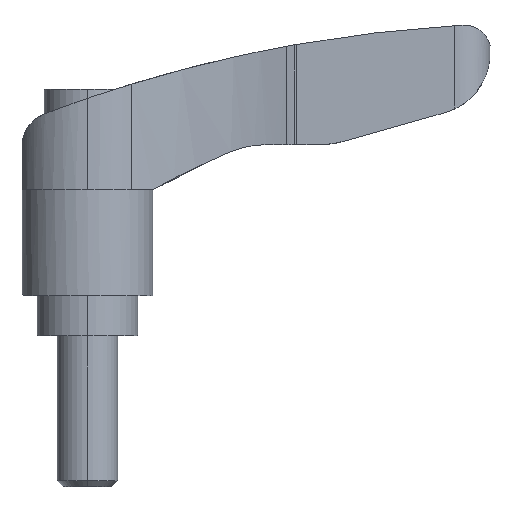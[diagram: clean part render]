
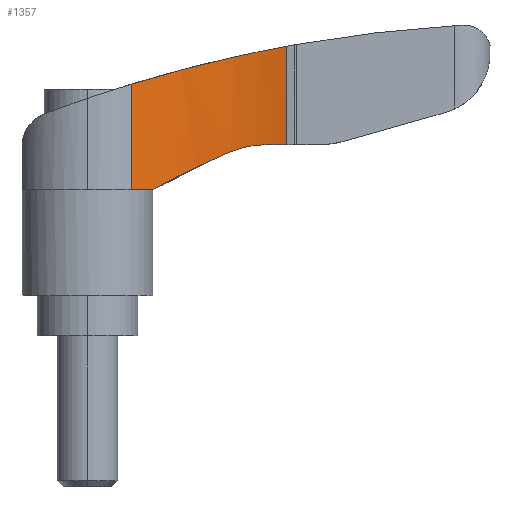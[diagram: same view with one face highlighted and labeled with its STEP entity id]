
A CAD part, front view. The second image highlights one B-rep face of the part: STEP entity #1357.
In plain terms, the highlighted cylindrical face has radius 30 mm (diameter 60 mm), a partial arc.
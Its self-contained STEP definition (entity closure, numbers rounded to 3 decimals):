
#5 = VERTEX_POINT ( 'NONE', #33 ) ;
#21 = EDGE_LOOP ( 'NONE', ( #1632, #405, #1134, #2070, #1921, #1961, #1460 ) ) ;
#33 = CARTESIAN_POINT ( 'NONE',  ( 19.777, -4.016, 28.774 ) ) ;
#96 = CARTESIAN_POINT ( 'NONE',  ( 5.581, -5.022, 25.381 ) ) ;
#97 = CARTESIAN_POINT ( 'NONE',  ( 15.391, -3.6, 18.707 ) ) ;
#168 = CARTESIAN_POINT ( 'NONE',  ( 6.49, -4.774, 14.5 ) ) ;
#255 = CARTESIAN_POINT ( 'NONE',  ( 14.256, -3.605, 18.298 ) ) ;
#284 = EDGE_CURVE ( 'NONE', #1866, #627, #488, .T. ) ;
#300 = VERTEX_POINT ( 'NONE', #1615 ) ;
#308 = AXIS2_PLACEMENT_3D ( 'NONE', #1377, #1356, #2018 ) ;
#336 = CARTESIAN_POINT ( 'NONE',  ( 12.903, -3.629, 17.732 ) ) ;
#349 = B_SPLINE_CURVE_WITH_KNOTS ( 'NONE', 3,
 ( #1167, #336, #2012, #1023, #1818, #168 ),
 .UNSPECIFIED., .F., .F.,
 ( 4, 2, 4 ),
 ( 0., 0.004, 0.009 ),
 .UNSPECIFIED. ) ;
#350 = VECTOR ( 'NONE', #2045, 1000. ) ;
#366 = CARTESIAN_POINT ( 'NONE',  ( 19.777, -4.016, 31. ) ) ;
#405 = ORIENTED_EDGE ( 'NONE', *, *, #923, .F. ) ;
#417 = CARTESIAN_POINT ( 'NONE',  ( 4.363, -5.474, 31. ) ) ;
#488 = CIRCLE ( 'NONE', #1073, 30. ) ;
#532 = DIRECTION ( 'NONE',  ( 0., -1., 0. ) ) ;
#554 = CARTESIAN_POINT ( 'NONE',  ( 19.777, -4.016, 19. ) ) ;
#576 = CARTESIAN_POINT ( 'NONE',  ( 17.15, -3.686, 19. ) ) ;
#616 = CARTESIAN_POINT ( 'NONE',  ( 14.513, -3.594, 27.7 ) ) ;
#627 = VERTEX_POINT ( 'NONE', #1346 ) ;
#636 = EDGE_CURVE ( 'NONE', #1906, #1816, #1663, .T. ) ;
#643 = DIRECTION ( 'NONE',  ( 0., 0., 1. ) ) ;
#662 = DIRECTION ( 'NONE',  ( 0., 0., 1. ) ) ;
#829 = CYLINDRICAL_SURFACE ( 'NONE', #830, 30. ) ;
#830 = AXIS2_PLACEMENT_3D ( 'NONE', #2020, #662, #532 ) ;
#906 = CARTESIAN_POINT ( 'NONE',  ( 19.777, -4.016, 28.774 ) ) ;
#923 = EDGE_CURVE ( 'NONE', #300, #5, #1050, .T. ) ;
#930 = CARTESIAN_POINT ( 'NONE',  ( 4.363, -5.474, 25.009 ) ) ;
#954 = DIRECTION ( 'NONE',  ( 0., -1., 0. ) ) ;
#1015 = EDGE_CURVE ( 'NONE', #2055, #1866, #349, .T. ) ;
#1022 = B_SPLINE_CURVE_WITH_KNOTS ( 'NONE', 3,
 ( #1924, #576, #1222, #97, #1381, #2039 ),
 .UNSPECIFIED., .F., .F.,
 ( 4, 2, 4 ),
 ( 0., 0.002, 0.004 ),
 .UNSPECIFIED. ) ;
#1023 = CARTESIAN_POINT ( 'NONE',  ( 8.994, -4.138, 15.864 ) ) ;
#1033 = EDGE_CURVE ( 'NONE', #627, #300, #1616, .T. ) ;
#1050 = B_SPLINE_CURVE_WITH_KNOTS ( 'NONE', 3,
 ( #930, #96, #1436, #2097, #1278, #1445, #2107, #616, #1758, #1069, #1443, #906 ),
 .UNSPECIFIED., .F., .F.,
 ( 4, 2, 2, 2, 2, 4 ),
 ( 0., 0.004, 0.008, 0.01, 0.012, 0.016 ),
 .UNSPECIFIED. ) ;
#1069 = CARTESIAN_POINT ( 'NONE',  ( 17.149, -3.663, 28.271 ) ) ;
#1073 = AXIS2_PLACEMENT_3D ( 'NONE', #1933, #643, #954 ) ;
#1134 = ORIENTED_EDGE ( 'NONE', *, *, #1033, .F. ) ;
#1167 = CARTESIAN_POINT ( 'NONE',  ( 14.256, -3.605, 18.298 ) ) ;
#1172 = EDGE_CURVE ( 'NONE', #1816, #2055, #1022, .T. ) ;
#1222 = CARTESIAN_POINT ( 'NONE',  ( 16.558, -3.646, 18.941 ) ) ;
#1278 = CARTESIAN_POINT ( 'NONE',  ( 10.605, -3.866, 26.767 ) ) ;
#1346 = CARTESIAN_POINT ( 'NONE',  ( 4.363, -5.474, 14.5 ) ) ;
#1354 = CARTESIAN_POINT ( 'NONE',  ( 6.49, -4.774, 14.5 ) ) ;
#1356 = DIRECTION ( 'NONE',  ( 0., 0., 1. ) ) ;
#1357 = ADVANCED_FACE ( 'NONE', ( #1403 ), #829, .F. ) ;
#1377 = CARTESIAN_POINT ( 'NONE',  ( 14.8, -33.6, 19. ) ) ;
#1381 = CARTESIAN_POINT ( 'NONE',  ( 14.813, -3.595, 18.531 ) ) ;
#1386 = CARTESIAN_POINT ( 'NONE',  ( 17.75, -3.745, 19. ) ) ;
#1403 = FACE_OUTER_BOUND ( 'NONE', #21, .T. ) ;
#1436 = CARTESIAN_POINT ( 'NONE',  ( 6.818, -4.653, 25.742 ) ) ;
#1443 = CARTESIAN_POINT ( 'NONE',  ( 18.464, -3.795, 28.533 ) ) ;
#1445 = CARTESIAN_POINT ( 'NONE',  ( 12.546, -3.678, 27.243 ) ) ;
#1447 = EDGE_CURVE ( 'NONE', #5, #1906, #1860, .T. ) ;
#1460 = ORIENTED_EDGE ( 'NONE', *, *, #636, .F. ) ;
#1615 = CARTESIAN_POINT ( 'NONE',  ( 4.363, -5.474, 25.009 ) ) ;
#1616 = LINE ( 'NONE', #417, #350 ) ;
#1630 = VECTOR ( 'NONE', #1778, 1000. ) ;
#1632 = ORIENTED_EDGE ( 'NONE', *, *, #1447, .F. ) ;
#1663 = CIRCLE ( 'NONE', #308, 30. ) ;
#1758 = CARTESIAN_POINT ( 'NONE',  ( 15.174, -3.595, 27.847 ) ) ;
#1778 = DIRECTION ( 'NONE',  ( 0., 0., -1. ) ) ;
#1816 = VERTEX_POINT ( 'NONE', #1386 ) ;
#1818 = CARTESIAN_POINT ( 'NONE',  ( 7.728, -4.417, 15.198 ) ) ;
#1860 = LINE ( 'NONE', #366, #1630 ) ;
#1866 = VERTEX_POINT ( 'NONE', #1354 ) ;
#1906 = VERTEX_POINT ( 'NONE', #554 ) ;
#1921 = ORIENTED_EDGE ( 'NONE', *, *, #1015, .F. ) ;
#1924 = CARTESIAN_POINT ( 'NONE',  ( 17.75, -3.745, 19. ) ) ;
#1933 = CARTESIAN_POINT ( 'NONE',  ( 14.8, -33.6, 14.5 ) ) ;
#1961 = ORIENTED_EDGE ( 'NONE', *, *, #1172, .F. ) ;
#2012 = CARTESIAN_POINT ( 'NONE',  ( 11.581, -3.744, 17.131 ) ) ;
#2018 = DIRECTION ( 'NONE',  ( 0., -1., 0. ) ) ;
#2020 = CARTESIAN_POINT ( 'NONE',  ( 14.8, -33.6, 31. ) ) ;
#2039 = CARTESIAN_POINT ( 'NONE',  ( 14.256, -3.605, 18.298 ) ) ;
#2045 = DIRECTION ( 'NONE',  ( 0., 0., 1. ) ) ;
#2055 = VERTEX_POINT ( 'NONE', #255 ) ;
#2070 = ORIENTED_EDGE ( 'NONE', *, *, #284, .F. ) ;
#2097 = CARTESIAN_POINT ( 'NONE',  ( 9.33, -4.075, 26.434 ) ) ;
#2107 = CARTESIAN_POINT ( 'NONE',  ( 13.199, -3.636, 27.398 ) ) ;
